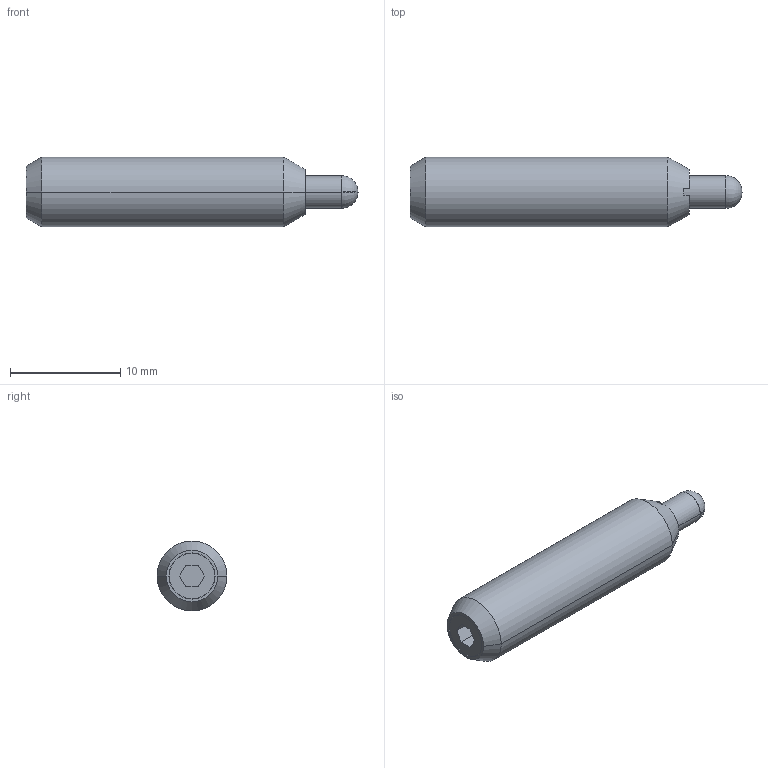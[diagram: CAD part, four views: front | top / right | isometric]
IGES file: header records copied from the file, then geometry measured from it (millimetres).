
Start section:  PTC IGES file: s54-3d.igs
Global section: file name: s54-3d.igs; native system: Pro/ENGINEER by Parametric Technology Corporation; preprocessor: 2002350; author: chant; organization: Unknown; date: 061031.135436; units: inch
Bounding box: 30.18 x 6.35 x 6.35 mm (x, y, z)
Surface area: 622.1 mm2 (no closed solid volume)
Topology: 0 solids, 0 shells, 32 faces, 222 edges, 280 vertices
Faces by surface type: bspline 16, revolution 16
